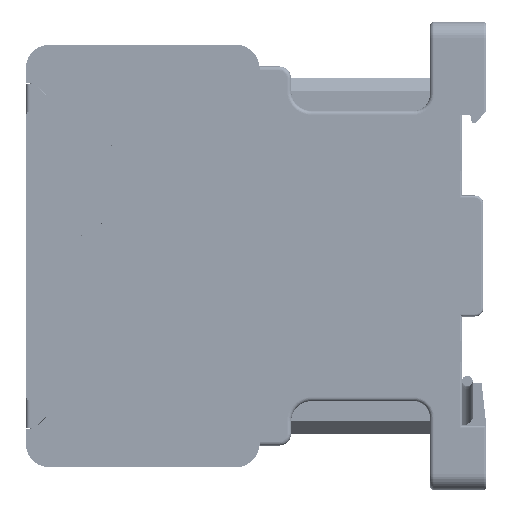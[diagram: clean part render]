
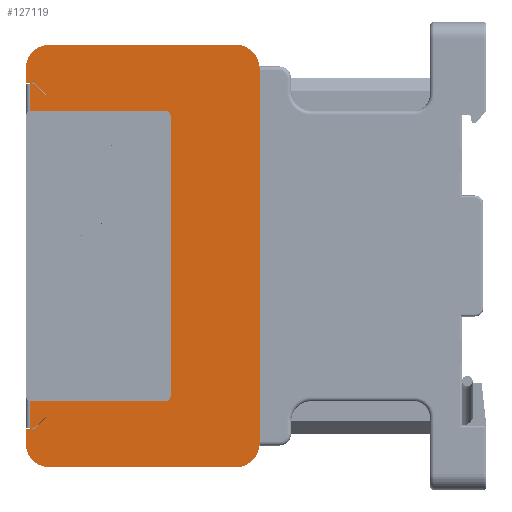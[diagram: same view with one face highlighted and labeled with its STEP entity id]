
A CAD part, left-side view. The second image highlights one B-rep face of the part: STEP entity #127119.
In plain terms, the highlighted planar face has unit normal (-1, 0, 0).
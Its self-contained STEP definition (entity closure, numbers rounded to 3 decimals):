
#3055=DIRECTION('',(0.,0.,1.));
#3056=VECTOR('',#3055,34.5);
#3057=CARTESIAN_POINT('',(-22.5,11.1,-17.25));
#3058=LINE('',#3057,#3056);
#3059=CARTESIAN_POINT('',(-22.5,11.85,17.25));
#3060=DIRECTION('',(-1.,0.,0.));
#3061=DIRECTION('',(0.,-1.,0.));
#3062=AXIS2_PLACEMENT_3D('',#3059,#3060,#3061);
#3064=DIRECTION('',(0.,1.,0.));
#3065=VECTOR('',#3064,16.5);
#3066=CARTESIAN_POINT('',(-22.5,11.85,18.));
#3067=LINE('',#3066,#3065);
#3068=CARTESIAN_POINT('',(-22.5,28.35,17.25));
#3069=DIRECTION('',(-1.,0.,0.));
#3070=DIRECTION('',(0.,0.,1.));
#3071=AXIS2_PLACEMENT_3D('',#3068,#3069,#3070);
#3073=DIRECTION('',(0.,0.,-1.));
#3074=VECTOR('',#3073,3.343);
#3075=CARTESIAN_POINT('',(-22.5,28.6,21.3));
#3076=LINE('',#3075,#3074);
#3077=DIRECTION('',(0.,-1.,0.));
#3078=VECTOR('',#3077,0.6);
#3079=CARTESIAN_POINT('',(-22.5,28.6,21.3));
#3080=LINE('',#3079,#3078);
#3081=DIRECTION('',(0.,0.707,0.707));
#3082=VECTOR('',#3081,1.98);
#3083=CARTESIAN_POINT('',(-22.5,26.6,19.9));
#3084=LINE('',#3083,#3082);
#3085=DIRECTION('',(0.,1.,0.));
#3086=VECTOR('',#3085,1.1);
#3087=CARTESIAN_POINT('',(-22.5,28.,21.5));
#3088=LINE('',#3087,#3086);
#3089=CARTESIAN_POINT('',(-22.5,26.1,23.2));
#3090=DIRECTION('',(-1.,0.,0.));
#3091=DIRECTION('',(0.,0.,1.));
#3092=AXIS2_PLACEMENT_3D('',#3089,#3090,#3091);
#3094=CARTESIAN_POINT('',(-22.5,3.1,23.2));
#3095=DIRECTION('',(-1.,0.,0.));
#3096=DIRECTION('',(0.,-1.,0.));
#3097=AXIS2_PLACEMENT_3D('',#3094,#3095,#3096);
#3099=CARTESIAN_POINT('',(-22.5,3.1,-23.2));
#3100=DIRECTION('',(-1.,0.,0.));
#3101=DIRECTION('',(0.,0.,-1.));
#3102=AXIS2_PLACEMENT_3D('',#3099,#3100,#3101);
#3104=DIRECTION('',(0.,1.,0.));
#3105=VECTOR('',#3104,23.);
#3106=CARTESIAN_POINT('',(-22.5,3.1,-26.2));
#3107=LINE('',#3106,#3105);
#3108=CARTESIAN_POINT('',(-22.5,26.1,-23.2));
#3109=DIRECTION('',(-1.,0.,0.));
#3110=DIRECTION('',(0.,1.,0.));
#3111=AXIS2_PLACEMENT_3D('',#3108,#3109,#3110);
#3113=DIRECTION('',(0.,-0.707,0.707));
#3114=VECTOR('',#3113,1.98);
#3115=CARTESIAN_POINT('',(-22.5,28.,-21.3));
#3116=LINE('',#3115,#3114);
#3117=DIRECTION('',(0.,0.,-1.));
#3118=VECTOR('',#3117,3.343);
#3119=CARTESIAN_POINT('',(-22.5,28.6,-17.957));
#3120=LINE('',#3119,#3118);
#3121=CARTESIAN_POINT('',(-22.5,28.35,-17.25));
#3122=DIRECTION('',(-1.,0.,0.));
#3123=DIRECTION('',(0.,0.333,-0.943));
#3124=AXIS2_PLACEMENT_3D('',#3121,#3122,#3123);
#3126=DIRECTION('',(0.,-1.,0.));
#3127=VECTOR('',#3126,16.5);
#3128=CARTESIAN_POINT('',(-22.5,28.35,-18.));
#3129=LINE('',#3128,#3127);
#3130=CARTESIAN_POINT('',(-22.5,11.85,-17.25));
#3131=DIRECTION('',(-1.,0.,0.));
#3132=DIRECTION('',(0.,0.,-1.));
#3133=AXIS2_PLACEMENT_3D('',#3130,#3131,#3132);
#3189=DIRECTION('',(0.,-1.,0.));
#3190=VECTOR('',#3189,0.6);
#3191=CARTESIAN_POINT('',(-22.5,28.6,-21.3));
#3192=LINE('',#3191,#3190);
#3390=DIRECTION('',(0.,0.,-1.));
#3391=VECTOR('',#3390,0.2);
#3392=CARTESIAN_POINT('',(-22.5,26.6,-19.9));
#3393=LINE('',#3392,#3391);
#3406=DIRECTION('',(0.,0.707,-0.707));
#3407=VECTOR('',#3406,1.98);
#3408=CARTESIAN_POINT('',(-22.5,26.6,-20.1));
#3409=LINE('',#3408,#3407);
#3602=DIRECTION('',(0.,0.,1.));
#3603=VECTOR('',#3602,46.4);
#3604=CARTESIAN_POINT('',(-22.5,0.1,-23.2));
#3605=LINE('',#3604,#3603);
#3698=DIRECTION('',(0.,0.,1.));
#3699=VECTOR('',#3698,1.7);
#3700=CARTESIAN_POINT('',(-22.5,29.1,-23.2));
#3701=LINE('',#3700,#3699);
#3706=DIRECTION('',(0.,1.,0.));
#3707=VECTOR('',#3706,1.1);
#3708=CARTESIAN_POINT('',(-22.5,28.,-21.5));
#3709=LINE('',#3708,#3707);
#3714=DIRECTION('',(0.,1.,0.));
#3715=VECTOR('',#3714,23.);
#3716=CARTESIAN_POINT('',(-22.5,3.1,26.2));
#3717=LINE('',#3716,#3715);
#3742=DIRECTION('',(0.,0.,1.));
#3743=VECTOR('',#3742,1.7);
#3744=CARTESIAN_POINT('',(-22.5,29.1,21.5));
#3745=LINE('',#3744,#3743);
#3766=DIRECTION('',(0.,-0.707,-0.707));
#3767=VECTOR('',#3766,1.98);
#3768=CARTESIAN_POINT('',(-22.5,28.,21.5));
#3769=LINE('',#3768,#3767);
#3782=DIRECTION('',(0.,0.,-1.));
#3783=VECTOR('',#3782,0.2);
#3784=CARTESIAN_POINT('',(-22.5,26.6,20.1));
#3785=LINE('',#3784,#3783);
#107420=CARTESIAN_POINT('',(-22.5,29.1,-21.5));
#107422=VERTEX_POINT('',#107420);
#107429=CARTESIAN_POINT('',(-22.5,29.1,21.5));
#107431=VERTEX_POINT('',#107429);
#107436=CARTESIAN_POINT('',(-22.5,26.1,26.2));
#107437=VERTEX_POINT('',#107436);
#107438=CARTESIAN_POINT('',(-22.5,29.1,23.2));
#107439=VERTEX_POINT('',#107438);
#107448=CARTESIAN_POINT('',(-22.5,29.1,-23.2));
#107449=CARTESIAN_POINT('',(-22.5,26.1,-26.2));
#107450=VERTEX_POINT('',#107448);
#107451=VERTEX_POINT('',#107449);
#107464=CARTESIAN_POINT('',(-22.5,26.6,-20.1));
#107465=CARTESIAN_POINT('',(-22.5,28.,-21.5));
#107466=VERTEX_POINT('',#107464);
#107467=VERTEX_POINT('',#107465);
#107468=CARTESIAN_POINT('',(-22.5,28.,21.5));
#107469=CARTESIAN_POINT('',(-22.5,26.6,20.1));
#107470=VERTEX_POINT('',#107468);
#107471=VERTEX_POINT('',#107469);
#107652=CARTESIAN_POINT('',(-22.5,3.1,-26.2));
#107653=CARTESIAN_POINT('',(-22.5,0.1,-23.2));
#107654=VERTEX_POINT('',#107652);
#107655=VERTEX_POINT('',#107653);
#107680=CARTESIAN_POINT('',(-22.5,0.1,23.2));
#107681=VERTEX_POINT('',#107680);
#107682=CARTESIAN_POINT('',(-22.5,3.1,26.2));
#107683=VERTEX_POINT('',#107682);
#114200=CARTESIAN_POINT('',(-22.5,28.,-21.3));
#114202=VERTEX_POINT('',#114200);
#114205=CARTESIAN_POINT('',(-22.5,28.,21.3));
#114207=VERTEX_POINT('',#114205);
#114328=CARTESIAN_POINT('',(-22.5,28.6,-21.3));
#114330=VERTEX_POINT('',#114328);
#114334=CARTESIAN_POINT('',(-22.5,28.6,21.3));
#114335=VERTEX_POINT('',#114334);
#115244=CARTESIAN_POINT('',(-22.5,26.6,-19.9));
#115246=VERTEX_POINT('',#115244);
#115248=CARTESIAN_POINT('',(-22.5,26.6,19.9));
#115250=VERTEX_POINT('',#115248);
#122494=CARTESIAN_POINT('',(-22.5,11.1,-17.25));
#122495=CARTESIAN_POINT('',(-22.5,11.1,17.25));
#122496=VERTEX_POINT('',#122494);
#122497=VERTEX_POINT('',#122495);
#122498=CARTESIAN_POINT('',(-22.5,11.85,18.));
#122499=CARTESIAN_POINT('',(-22.5,28.35,18.));
#122500=VERTEX_POINT('',#122498);
#122501=VERTEX_POINT('',#122499);
#122502=CARTESIAN_POINT('',(-22.5,28.35,-18.));
#122503=CARTESIAN_POINT('',(-22.5,11.85,-18.));
#122504=VERTEX_POINT('',#122502);
#122505=VERTEX_POINT('',#122503);
#122506=CARTESIAN_POINT('',(-22.5,28.6,17.957));
#122507=VERTEX_POINT('',#122506);
#122508=CARTESIAN_POINT('',(-22.5,28.6,-17.957));
#122509=VERTEX_POINT('',#122508);
#127057=CARTESIAN_POINT('',(-22.5,28.1,-26.2));
#127058=DIRECTION('',(-1.,0.,0.));
#127059=DIRECTION('',(0.,-1.,0.));
#127060=AXIS2_PLACEMENT_3D('',#127057,#127058,#127059);
#127061=PLANE('',#127060);
#127062=ORIENTED_EDGE('',*,*,#127021,.T.);
#127064=ORIENTED_EDGE('',*,*,#127063,.T.);
#127066=ORIENTED_EDGE('',*,*,#127065,.T.);
#127068=ORIENTED_EDGE('',*,*,#127067,.T.);
#127070=ORIENTED_EDGE('',*,*,#127069,.F.);
#127072=ORIENTED_EDGE('',*,*,#127071,.T.);
#127074=ORIENTED_EDGE('',*,*,#127073,.F.);
#127076=ORIENTED_EDGE('',*,*,#127075,.F.);
#127078=ORIENTED_EDGE('',*,*,#127077,.F.);
#127080=ORIENTED_EDGE('',*,*,#127079,.T.);
#127082=ORIENTED_EDGE('',*,*,#127081,.T.);
#127084=ORIENTED_EDGE('',*,*,#127083,.F.);
#127086=ORIENTED_EDGE('',*,*,#127085,.F.);
#127088=ORIENTED_EDGE('',*,*,#127087,.F.);
#127090=ORIENTED_EDGE('',*,*,#127089,.F.);
#127092=ORIENTED_EDGE('',*,*,#127091,.F.);
#127094=ORIENTED_EDGE('',*,*,#127093,.T.);
#127096=ORIENTED_EDGE('',*,*,#127095,.F.);
#127098=ORIENTED_EDGE('',*,*,#127097,.T.);
#127100=ORIENTED_EDGE('',*,*,#127099,.F.);
#127102=ORIENTED_EDGE('',*,*,#127101,.F.);
#127104=ORIENTED_EDGE('',*,*,#127103,.F.);
#127106=ORIENTED_EDGE('',*,*,#127105,.F.);
#127108=ORIENTED_EDGE('',*,*,#127107,.F.);
#127110=ORIENTED_EDGE('',*,*,#127109,.F.);
#127112=ORIENTED_EDGE('',*,*,#127111,.T.);
#127114=ORIENTED_EDGE('',*,*,#127113,.T.);
#127116=ORIENTED_EDGE('',*,*,#127115,.T.);
#127117=EDGE_LOOP('',(#127062,#127064,#127066,#127068,#127070,#127072,#127074,
#127076,#127078,#127080,#127082,#127084,#127086,#127088,#127090,#127092,#127094,
#127096,#127098,#127100,#127102,#127104,#127106,#127108,#127110,#127112,#127114,
#127116));
#127118=FACE_OUTER_BOUND('',#127117,.F.);
#127119=ADVANCED_FACE('',(#127118),#127061,.T.);
#3063=CIRCLE('',#3062,0.75);
#3072=CIRCLE('',#3071,0.75);
#3093=CIRCLE('',#3092,3.);
#3098=CIRCLE('',#3097,3.);
#3103=CIRCLE('',#3102,3.);
#3112=CIRCLE('',#3111,3.);
#3125=CIRCLE('',#3124,0.75);
#3134=CIRCLE('',#3133,0.75);
#127021=EDGE_CURVE('',#122496,#122497,#3058,.T.);
#127063=EDGE_CURVE('',#122497,#122500,#3063,.T.);
#127065=EDGE_CURVE('',#122500,#122501,#3067,.T.);
#127067=EDGE_CURVE('',#122501,#122507,#3072,.T.);
#127069=EDGE_CURVE('',#114335,#122507,#3076,.T.);
#127071=EDGE_CURVE('',#114335,#114207,#3080,.T.);
#127073=EDGE_CURVE('',#115250,#114207,#3084,.T.);
#127075=EDGE_CURVE('',#107471,#115250,#3785,.T.);
#127077=EDGE_CURVE('',#107470,#107471,#3769,.T.);
#127079=EDGE_CURVE('',#107470,#107431,#3088,.T.);
#127081=EDGE_CURVE('',#107431,#107439,#3745,.T.);
#127083=EDGE_CURVE('',#107437,#107439,#3093,.T.);
#127085=EDGE_CURVE('',#107683,#107437,#3717,.T.);
#127087=EDGE_CURVE('',#107681,#107683,#3098,.T.);
#127089=EDGE_CURVE('',#107655,#107681,#3605,.T.);
#127091=EDGE_CURVE('',#107654,#107655,#3103,.T.);
#127093=EDGE_CURVE('',#107654,#107451,#3107,.T.);
#127095=EDGE_CURVE('',#107450,#107451,#3112,.T.);
#127097=EDGE_CURVE('',#107450,#107422,#3701,.T.);
#127099=EDGE_CURVE('',#107467,#107422,#3709,.T.);
#127101=EDGE_CURVE('',#107466,#107467,#3409,.T.);
#127103=EDGE_CURVE('',#115246,#107466,#3393,.T.);
#127105=EDGE_CURVE('',#114202,#115246,#3116,.T.);
#127107=EDGE_CURVE('',#114330,#114202,#3192,.T.);
#127109=EDGE_CURVE('',#122509,#114330,#3120,.T.);
#127111=EDGE_CURVE('',#122509,#122504,#3125,.T.);
#127113=EDGE_CURVE('',#122504,#122505,#3129,.T.);
#127115=EDGE_CURVE('',#122505,#122496,#3134,.T.);
